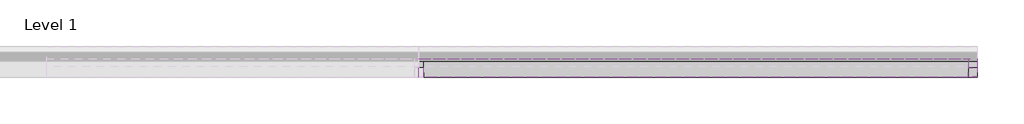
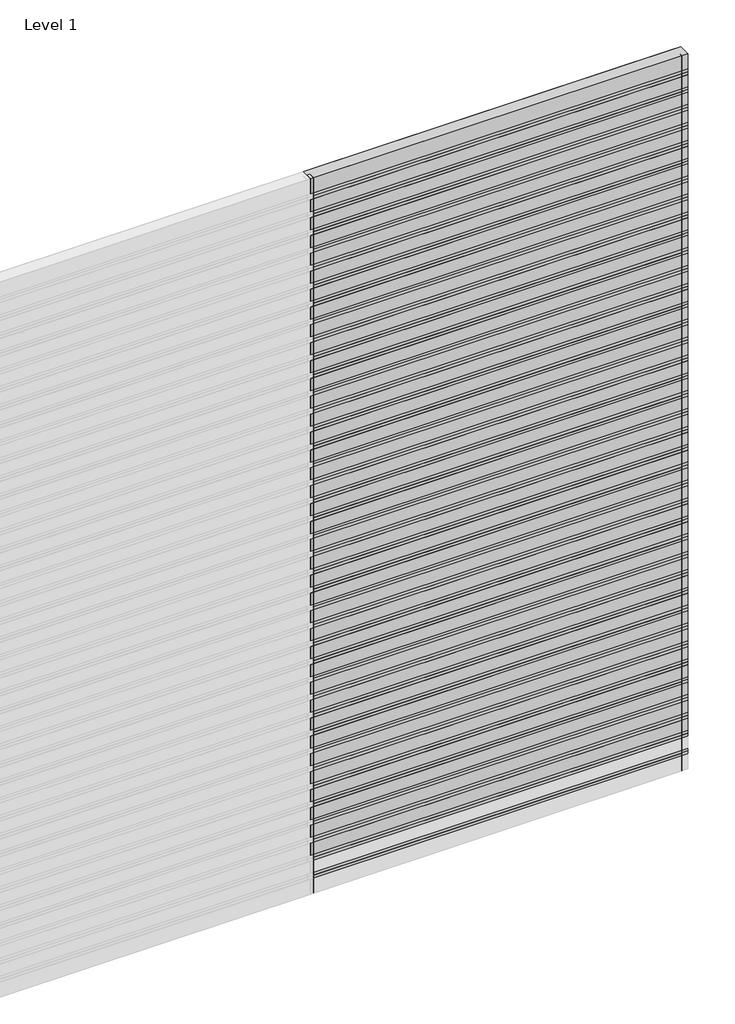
# One storey, part 3 of 3: 78 plates, 40 members.
"""IFC4 building model written with IfcOpenShell, lengths in millimetres."""

from ifc_helpers import new_model, si_unit, origin, place, context, project, spatial, transform, mapped, element, save
from components import rectangular_mullion_64cc6fdd, empty_system_panel_empty_4bef3949, empty_system_panel_empty_2cee0f2e, empty_system_panel_empty_149e9d60

model = new_model("IFC4")

# Units and contexts
model_context = context("Model", 3, world=origin())
ifc_project = project(units=[si_unit("LENGTHUNIT", "METRE", prefix="MILLI")], contexts=[model_context])

# Site, building, storey
site = spatial("IfcSite", under=ifc_project)
building = spatial("IfcBuilding", under=site)
storey = spatial("IfcBuildingStorey", under=building, Name="Level 1", Elevation=0.0)

# Members
placement = place(None, origin())
rectangular_mullion_shape = rectangular_mullion_64cc6fdd(model_context)
element("IfcMember", 1, ObjectType="Rectangular Mullion : RSen_21_CWM_support profile 50x50 - right_gen_duco projects", at=placement, inside=storey, context=model_context, shape_type="MappedRepresentation", body=[
    mapped(rectangular_mullion_shape, transform((6000.0, 3000.0, 6000.0), x_axis=(1.0, 0.0, 0.0), y_axis=(0.0, 1.0, 0.0), z_axis=(0.0, 0.0, 1.0))),
])
element("IfcMember", 2, ObjectType="Rectangular Mullion : RSen_21_CWM_support profile 50x50 - right_gen_duco projects", at=placement, inside=storey, context=model_context, shape_type="MappedRepresentation", body=[
    mapped(rectangular_mullion_shape, transform((6000.0, 3000.0, 150.0), x_axis=(1.0, 0.0, 0.0), y_axis=(0.0, 1.0, 0.0), z_axis=(0.0, 0.0, 1.0))),
])
element("IfcMember", 3, ObjectType="Rectangular Mullion : RSen_21_CWM_support profile 50x50 - right_gen_duco projects", at=placement, inside=storey, context=model_context, shape_type="MappedRepresentation", body=[
    mapped(rectangular_mullion_shape, transform((6000.0, 3000.0, 300.0), x_axis=(1.0, 0.0, 0.0), y_axis=(0.0, 1.0, 0.0), z_axis=(0.0, 0.0, 1.0))),
])
element("IfcMember", 4, ObjectType="Rectangular Mullion : RSen_21_CWM_support profile 50x50 - right_gen_duco projects", at=placement, inside=storey, context=model_context, shape_type="MappedRepresentation", body=[
    mapped(rectangular_mullion_shape, transform((6000.0, 3000.0, 450.0), x_axis=(1.0, 0.0, 0.0), y_axis=(0.0, 1.0, 0.0), z_axis=(0.0, 0.0, 1.0))),
])
element("IfcMember", 5, ObjectType="Rectangular Mullion : RSen_21_CWM_support profile 50x50 - right_gen_duco projects", at=placement, inside=storey, context=model_context, shape_type="MappedRepresentation", body=[
    mapped(rectangular_mullion_shape, transform((6000.0, 3000.0, 600.0), x_axis=(1.0, 0.0, 0.0), y_axis=(0.0, 1.0, 0.0), z_axis=(0.0, 0.0, 1.0))),
])
element("IfcMember", 6, ObjectType="Rectangular Mullion : RSen_21_CWM_support profile 50x50 - right_gen_duco projects", at=placement, inside=storey, context=model_context, shape_type="MappedRepresentation", body=[
    mapped(rectangular_mullion_shape, transform((6000.0, 3000.0, 750.0), x_axis=(1.0, 0.0, 0.0), y_axis=(0.0, 1.0, 0.0), z_axis=(0.0, 0.0, 1.0))),
])
element("IfcMember", 7, ObjectType="Rectangular Mullion : RSen_21_CWM_support profile 50x50 - right_gen_duco projects", at=placement, inside=storey, context=model_context, shape_type="MappedRepresentation", body=[
    mapped(rectangular_mullion_shape, transform((6000.0, 3000.0, 900.0), x_axis=(1.0, 0.0, 0.0), y_axis=(0.0, 1.0, 0.0), z_axis=(0.0, 0.0, 1.0))),
])
element("IfcMember", 8, ObjectType="Rectangular Mullion : RSen_21_CWM_support profile 50x50 - right_gen_duco projects", at=placement, inside=storey, context=model_context, shape_type="MappedRepresentation", body=[
    mapped(rectangular_mullion_shape, transform((6000.0, 3000.0, 1050.0), x_axis=(1.0, 0.0, 0.0), y_axis=(0.0, 1.0, 0.0), z_axis=(0.0, 0.0, 1.0))),
])
element("IfcMember", 9, ObjectType="Rectangular Mullion : RSen_21_CWM_support profile 50x50 - right_gen_duco projects", at=placement, inside=storey, context=model_context, shape_type="MappedRepresentation", body=[
    mapped(rectangular_mullion_shape, transform((6000.0, 3000.0, 1200.0), x_axis=(1.0, 0.0, 0.0), y_axis=(0.0, 1.0, 0.0), z_axis=(0.0, 0.0, 1.0))),
])
element("IfcMember", 10, ObjectType="Rectangular Mullion : RSen_21_CWM_support profile 50x50 - right_gen_duco projects", at=placement, inside=storey, context=model_context, shape_type="MappedRepresentation", body=[
    mapped(rectangular_mullion_shape, transform((6000.0, 3000.0, 1350.0), x_axis=(1.0, 0.0, 0.0), y_axis=(0.0, 1.0, 0.0), z_axis=(0.0, 0.0, 1.0))),
])
element("IfcMember", 11, ObjectType="Rectangular Mullion : RSen_21_CWM_support profile 50x50 - right_gen_duco projects", at=placement, inside=storey, context=model_context, shape_type="MappedRepresentation", body=[
    mapped(rectangular_mullion_shape, transform((6000.0, 3000.0, 1500.0), x_axis=(1.0, 0.0, 0.0), y_axis=(0.0, 1.0, 0.0), z_axis=(0.0, 0.0, 1.0))),
])
element("IfcMember", 12, ObjectType="Rectangular Mullion : RSen_21_CWM_support profile 50x50 - right_gen_duco projects", at=placement, inside=storey, context=model_context, shape_type="MappedRepresentation", body=[
    mapped(rectangular_mullion_shape, transform((6000.0, 3000.0, 1650.0), x_axis=(1.0, 0.0, 0.0), y_axis=(0.0, 1.0, 0.0), z_axis=(0.0, 0.0, 1.0))),
])
element("IfcMember", 13, ObjectType="Rectangular Mullion : RSen_21_CWM_support profile 50x50 - right_gen_duco projects", at=placement, inside=storey, context=model_context, shape_type="MappedRepresentation", body=[
    mapped(rectangular_mullion_shape, transform((6000.0, 3000.0, 1800.0), x_axis=(1.0, 0.0, 0.0), y_axis=(0.0, 1.0, 0.0), z_axis=(0.0, 0.0, 1.0))),
])
element("IfcMember", 14, ObjectType="Rectangular Mullion : RSen_21_CWM_support profile 50x50 - right_gen_duco projects", at=placement, inside=storey, context=model_context, shape_type="MappedRepresentation", body=[
    mapped(rectangular_mullion_shape, transform((6000.0, 3000.0, 1950.0), x_axis=(1.0, 0.0, 0.0), y_axis=(0.0, 1.0, 0.0), z_axis=(0.0, 0.0, 1.0))),
])
element("IfcMember", 15, ObjectType="Rectangular Mullion : RSen_21_CWM_support profile 50x50 - right_gen_duco projects", at=placement, inside=storey, context=model_context, shape_type="MappedRepresentation", body=[
    mapped(rectangular_mullion_shape, transform((6000.0, 3000.0, 2100.0), x_axis=(1.0, 0.0, 0.0), y_axis=(0.0, 1.0, 0.0), z_axis=(0.0, 0.0, 1.0))),
])
element("IfcMember", 16, ObjectType="Rectangular Mullion : RSen_21_CWM_support profile 50x50 - right_gen_duco projects", at=placement, inside=storey, context=model_context, shape_type="MappedRepresentation", body=[
    mapped(rectangular_mullion_shape, transform((6000.0, 3000.0, 2250.0), x_axis=(1.0, 0.0, 0.0), y_axis=(0.0, 1.0, 0.0), z_axis=(0.0, 0.0, 1.0))),
])
element("IfcMember", 17, ObjectType="Rectangular Mullion : RSen_21_CWM_support profile 50x50 - right_gen_duco projects", at=placement, inside=storey, context=model_context, shape_type="MappedRepresentation", body=[
    mapped(rectangular_mullion_shape, transform((6000.0, 3000.0, 2400.0), x_axis=(1.0, 0.0, 0.0), y_axis=(0.0, 1.0, 0.0), z_axis=(0.0, 0.0, 1.0))),
])
element("IfcMember", 18, ObjectType="Rectangular Mullion : RSen_21_CWM_support profile 50x50 - right_gen_duco projects", at=placement, inside=storey, context=model_context, shape_type="MappedRepresentation", body=[
    mapped(rectangular_mullion_shape, transform((6000.0, 3000.0, 2550.0), x_axis=(1.0, 0.0, 0.0), y_axis=(0.0, 1.0, 0.0), z_axis=(0.0, 0.0, 1.0))),
])
element("IfcMember", 19, ObjectType="Rectangular Mullion : RSen_21_CWM_support profile 50x50 - right_gen_duco projects", at=placement, inside=storey, context=model_context, shape_type="MappedRepresentation", body=[
    mapped(rectangular_mullion_shape, transform((6000.0, 3000.0, 2700.0), x_axis=(1.0, 0.0, 0.0), y_axis=(0.0, 1.0, 0.0), z_axis=(0.0, 0.0, 1.0))),
])
element("IfcMember", 20, ObjectType="Rectangular Mullion : RSen_21_CWM_support profile 50x50 - right_gen_duco projects", at=placement, inside=storey, context=model_context, shape_type="MappedRepresentation", body=[
    mapped(rectangular_mullion_shape, transform((6000.0, 3000.0, 2850.0), x_axis=(1.0, 0.0, 0.0), y_axis=(0.0, 1.0, 0.0), z_axis=(0.0, 0.0, 1.0))),
])
element("IfcMember", 21, ObjectType="Rectangular Mullion : RSen_21_CWM_support profile 50x50 - right_gen_duco projects", at=placement, inside=storey, context=model_context, shape_type="MappedRepresentation", body=[
    mapped(rectangular_mullion_shape, transform((6000.0, 3000.0, 3000.0), x_axis=(1.0, 0.0, 0.0), y_axis=(0.0, 1.0, 0.0), z_axis=(0.0, 0.0, 1.0))),
])
element("IfcMember", 22, ObjectType="Rectangular Mullion : RSen_21_CWM_support profile 50x50 - right_gen_duco projects", at=placement, inside=storey, context=model_context, shape_type="MappedRepresentation", body=[
    mapped(rectangular_mullion_shape, transform((6000.0, 3000.0, 3150.0), x_axis=(1.0, 0.0, 0.0), y_axis=(0.0, 1.0, 0.0), z_axis=(0.0, 0.0, 1.0))),
])
element("IfcMember", 23, ObjectType="Rectangular Mullion : RSen_21_CWM_support profile 50x50 - right_gen_duco projects", at=placement, inside=storey, context=model_context, shape_type="MappedRepresentation", body=[
    mapped(rectangular_mullion_shape, transform((6000.0, 3000.0, 3300.0), x_axis=(1.0, 0.0, 0.0), y_axis=(0.0, 1.0, 0.0), z_axis=(0.0, 0.0, 1.0))),
])
element("IfcMember", 24, ObjectType="Rectangular Mullion : RSen_21_CWM_support profile 50x50 - right_gen_duco projects", at=placement, inside=storey, context=model_context, shape_type="MappedRepresentation", body=[
    mapped(rectangular_mullion_shape, transform((6000.0, 3000.0, 3450.0), x_axis=(1.0, 0.0, 0.0), y_axis=(0.0, 1.0, 0.0), z_axis=(0.0, 0.0, 1.0))),
])
element("IfcMember", 25, ObjectType="Rectangular Mullion : RSen_21_CWM_support profile 50x50 - right_gen_duco projects", at=placement, inside=storey, context=model_context, shape_type="MappedRepresentation", body=[
    mapped(rectangular_mullion_shape, transform((6000.0, 3000.0, 3600.0), x_axis=(1.0, 0.0, 0.0), y_axis=(0.0, 1.0, 0.0), z_axis=(0.0, 0.0, 1.0))),
])
element("IfcMember", 26, ObjectType="Rectangular Mullion : RSen_21_CWM_support profile 50x50 - right_gen_duco projects", at=placement, inside=storey, context=model_context, shape_type="MappedRepresentation", body=[
    mapped(rectangular_mullion_shape, transform((6000.0, 3000.0, 3750.0), x_axis=(1.0, 0.0, 0.0), y_axis=(0.0, 1.0, 0.0), z_axis=(0.0, 0.0, 1.0))),
])
element("IfcMember", 27, ObjectType="Rectangular Mullion : RSen_21_CWM_support profile 50x50 - right_gen_duco projects", at=placement, inside=storey, context=model_context, shape_type="MappedRepresentation", body=[
    mapped(rectangular_mullion_shape, transform((6000.0, 3000.0, 3900.0), x_axis=(1.0, 0.0, 0.0), y_axis=(0.0, 1.0, 0.0), z_axis=(0.0, 0.0, 1.0))),
])
element("IfcMember", 28, ObjectType="Rectangular Mullion : RSen_21_CWM_support profile 50x50 - right_gen_duco projects", at=placement, inside=storey, context=model_context, shape_type="MappedRepresentation", body=[
    mapped(rectangular_mullion_shape, transform((6000.0, 3000.0, 4050.0), x_axis=(1.0, 0.0, 0.0), y_axis=(0.0, 1.0, 0.0), z_axis=(0.0, 0.0, 1.0))),
])
element("IfcMember", 29, ObjectType="Rectangular Mullion : RSen_21_CWM_support profile 50x50 - right_gen_duco projects", at=placement, inside=storey, context=model_context, shape_type="MappedRepresentation", body=[
    mapped(rectangular_mullion_shape, transform((6000.0, 3000.0, 4200.0), x_axis=(1.0, 0.0, 0.0), y_axis=(0.0, 1.0, 0.0), z_axis=(0.0, 0.0, 1.0))),
])
element("IfcMember", 30, ObjectType="Rectangular Mullion : RSen_21_CWM_support profile 50x50 - right_gen_duco projects", at=placement, inside=storey, context=model_context, shape_type="MappedRepresentation", body=[
    mapped(rectangular_mullion_shape, transform((6000.0, 3000.0, 4350.0), x_axis=(1.0, 0.0, 0.0), y_axis=(0.0, 1.0, 0.0), z_axis=(0.0, 0.0, 1.0))),
])
element("IfcMember", 31, ObjectType="Rectangular Mullion : RSen_21_CWM_support profile 50x50 - right_gen_duco projects", at=placement, inside=storey, context=model_context, shape_type="MappedRepresentation", body=[
    mapped(rectangular_mullion_shape, transform((6000.0, 3000.0, 4500.0), x_axis=(1.0, 0.0, 0.0), y_axis=(0.0, 1.0, 0.0), z_axis=(0.0, 0.0, 1.0))),
])
element("IfcMember", 32, ObjectType="Rectangular Mullion : RSen_21_CWM_support profile 50x50 - right_gen_duco projects", at=placement, inside=storey, context=model_context, shape_type="MappedRepresentation", body=[
    mapped(rectangular_mullion_shape, transform((6000.0, 3000.0, 4650.0), x_axis=(1.0, 0.0, 0.0), y_axis=(0.0, 1.0, 0.0), z_axis=(0.0, 0.0, 1.0))),
])
element("IfcMember", 33, ObjectType="Rectangular Mullion : RSen_21_CWM_support profile 50x50 - right_gen_duco projects", at=placement, inside=storey, context=model_context, shape_type="MappedRepresentation", body=[
    mapped(rectangular_mullion_shape, transform((6000.0, 3000.0, 4800.0), x_axis=(1.0, 0.0, 0.0), y_axis=(0.0, 1.0, 0.0), z_axis=(0.0, 0.0, 1.0))),
])
element("IfcMember", 34, ObjectType="Rectangular Mullion : RSen_21_CWM_support profile 50x50 - right_gen_duco projects", at=placement, inside=storey, context=model_context, shape_type="MappedRepresentation", body=[
    mapped(rectangular_mullion_shape, transform((6000.0, 3000.0, 4950.0), x_axis=(1.0, 0.0, 0.0), y_axis=(0.0, 1.0, 0.0), z_axis=(0.0, 0.0, 1.0))),
])
element("IfcMember", 35, ObjectType="Rectangular Mullion : RSen_21_CWM_support profile 50x50 - right_gen_duco projects", at=placement, inside=storey, context=model_context, shape_type="MappedRepresentation", body=[
    mapped(rectangular_mullion_shape, transform((6000.0, 3000.0, 5100.0), x_axis=(1.0, 0.0, 0.0), y_axis=(0.0, 1.0, 0.0), z_axis=(0.0, 0.0, 1.0))),
])
element("IfcMember", 36, ObjectType="Rectangular Mullion : RSen_21_CWM_support profile 50x50 - right_gen_duco projects", at=placement, inside=storey, context=model_context, shape_type="MappedRepresentation", body=[
    mapped(rectangular_mullion_shape, transform((6000.0, 3000.0, 5250.0), x_axis=(1.0, 0.0, 0.0), y_axis=(0.0, 1.0, 0.0), z_axis=(0.0, 0.0, 1.0))),
])
element("IfcMember", 37, ObjectType="Rectangular Mullion : RSen_21_CWM_support profile 50x50 - right_gen_duco projects", at=placement, inside=storey, context=model_context, shape_type="MappedRepresentation", body=[
    mapped(rectangular_mullion_shape, transform((6000.0, 3000.0, 5400.0), x_axis=(1.0, 0.0, 0.0), y_axis=(0.0, 1.0, 0.0), z_axis=(0.0, 0.0, 1.0))),
])
element("IfcMember", 38, ObjectType="Rectangular Mullion : RSen_21_CWM_support profile 50x50 - right_gen_duco projects", at=placement, inside=storey, context=model_context, shape_type="MappedRepresentation", body=[
    mapped(rectangular_mullion_shape, transform((6000.0, 3000.0, 5550.0), x_axis=(1.0, 0.0, 0.0), y_axis=(0.0, 1.0, 0.0), z_axis=(0.0, 0.0, 1.0))),
])
element("IfcMember", 39, ObjectType="Rectangular Mullion : RSen_21_CWM_support profile 50x50 - right_gen_duco projects", at=placement, inside=storey, context=model_context, shape_type="MappedRepresentation", body=[
    mapped(rectangular_mullion_shape, transform((6000.0, 3000.0, 5700.0), x_axis=(1.0, 0.0, 0.0), y_axis=(0.0, 1.0, 0.0), z_axis=(0.0, 0.0, 1.0))),
])
element("IfcMember", 40, ObjectType="Rectangular Mullion : RSen_21_CWM_support profile 50x50 - right_gen_duco projects", at=placement, inside=storey, context=model_context, shape_type="MappedRepresentation", body=[
    mapped(rectangular_mullion_shape, transform((6000.0, 3000.0, 5850.0), x_axis=(1.0, 0.0, 0.0), y_axis=(0.0, 1.0, 0.0), z_axis=(0.0, 0.0, 1.0))),
])

# Plates
empty_system_panel_empty_shape = empty_system_panel_empty_4bef3949(model_context)
element("IfcPlate", 41, ObjectType="Empty System Panel : Empty", at=placement, inside=storey, context=model_context, shape_type="MappedRepresentation", body=[
    mapped(empty_system_panel_empty_shape, transform((4500.0, 3000.0, 5874.7487373), x_axis=(-1.0, 0.0, 0.0), y_axis=(0.0, -1.0, 0.0), z_axis=(0.0, 0.0, 1.0))),
])
empty_system_panel_empty_2_shape = empty_system_panel_empty_2cee0f2e(model_context)
element("IfcPlate", 42, ObjectType="Empty System Panel : Empty", at=placement, inside=storey, context=model_context, shape_type="MappedRepresentation", body=[
    mapped(empty_system_panel_empty_2_shape, transform((4500.0, 3000.0, 324.7487373), x_axis=(-1.0, 0.0, 0.0), y_axis=(0.0, -1.0, 0.0), z_axis=(0.0, 0.0, 1.0))),
])
element("IfcPlate", 43, ObjectType="Empty System Panel : Empty", at=placement, inside=storey, context=model_context, shape_type="MappedRepresentation", body=[
    mapped(empty_system_panel_empty_2_shape, transform((4500.0, 3000.0, 474.7487373), x_axis=(-1.0, 0.0, 0.0), y_axis=(0.0, -1.0, 0.0), z_axis=(0.0, 0.0, 1.0))),
])
element("IfcPlate", 44, ObjectType="Empty System Panel : Empty", at=placement, inside=storey, context=model_context, shape_type="MappedRepresentation", body=[
    mapped(empty_system_panel_empty_2_shape, transform((4500.0, 3000.0, 624.7487373), x_axis=(-1.0, 0.0, 0.0), y_axis=(0.0, -1.0, 0.0), z_axis=(0.0, 0.0, 1.0))),
])
element("IfcPlate", 45, ObjectType="Empty System Panel : Empty", at=placement, inside=storey, context=model_context, shape_type="MappedRepresentation", body=[
    mapped(empty_system_panel_empty_2_shape, transform((4500.0, 3000.0, 774.7487373), x_axis=(-1.0, 0.0, 0.0), y_axis=(0.0, -1.0, 0.0), z_axis=(0.0, 0.0, 1.0))),
])
element("IfcPlate", 46, ObjectType="Empty System Panel : Empty", at=placement, inside=storey, context=model_context, shape_type="MappedRepresentation", body=[
    mapped(empty_system_panel_empty_2_shape, transform((4500.0, 3000.0, 924.7487373), x_axis=(-1.0, 0.0, 0.0), y_axis=(0.0, -1.0, 0.0), z_axis=(0.0, 0.0, 1.0))),
])
element("IfcPlate", 47, ObjectType="Empty System Panel : Empty", at=placement, inside=storey, context=model_context, shape_type="MappedRepresentation", body=[
    mapped(empty_system_panel_empty_2_shape, transform((4500.0, 3000.0, 1074.7487373), x_axis=(-1.0, 0.0, 0.0), y_axis=(0.0, -1.0, 0.0), z_axis=(0.0, 0.0, 1.0))),
])
element("IfcPlate", 48, ObjectType="Empty System Panel : Empty", at=placement, inside=storey, context=model_context, shape_type="MappedRepresentation", body=[
    mapped(empty_system_panel_empty_2_shape, transform((4500.0, 3000.0, 1224.7487373), x_axis=(-1.0, 0.0, 0.0), y_axis=(0.0, -1.0, 0.0), z_axis=(0.0, 0.0, 1.0))),
])
element("IfcPlate", 49, ObjectType="Empty System Panel : Empty", at=placement, inside=storey, context=model_context, shape_type="MappedRepresentation", body=[
    mapped(empty_system_panel_empty_2_shape, transform((4500.0, 3000.0, 1374.7487373), x_axis=(-1.0, 0.0, 0.0), y_axis=(0.0, -1.0, 0.0), z_axis=(0.0, 0.0, 1.0))),
])
element("IfcPlate", 50, ObjectType="Empty System Panel : Empty", at=placement, inside=storey, context=model_context, shape_type="MappedRepresentation", body=[
    mapped(empty_system_panel_empty_2_shape, transform((4500.0, 3000.0, 1524.7487373), x_axis=(-1.0, 0.0, 0.0), y_axis=(0.0, -1.0, 0.0), z_axis=(0.0, 0.0, 1.0))),
])
element("IfcPlate", 51, ObjectType="Empty System Panel : Empty", at=placement, inside=storey, context=model_context, shape_type="MappedRepresentation", body=[
    mapped(empty_system_panel_empty_2_shape, transform((4500.0, 3000.0, 1674.7487373), x_axis=(-1.0, 0.0, 0.0), y_axis=(0.0, -1.0, 0.0), z_axis=(0.0, 0.0, 1.0))),
])
element("IfcPlate", 52, ObjectType="Empty System Panel : Empty", at=placement, inside=storey, context=model_context, shape_type="MappedRepresentation", body=[
    mapped(empty_system_panel_empty_2_shape, transform((4500.0, 3000.0, 1824.7487373), x_axis=(-1.0, 0.0, 0.0), y_axis=(0.0, -1.0, 0.0), z_axis=(0.0, 0.0, 1.0))),
])
element("IfcPlate", 53, ObjectType="Empty System Panel : Empty", at=placement, inside=storey, context=model_context, shape_type="MappedRepresentation", body=[
    mapped(empty_system_panel_empty_2_shape, transform((4500.0, 3000.0, 1974.7487373), x_axis=(-1.0, 0.0, 0.0), y_axis=(0.0, -1.0, 0.0), z_axis=(0.0, 0.0, 1.0))),
])
element("IfcPlate", 54, ObjectType="Empty System Panel : Empty", at=placement, inside=storey, context=model_context, shape_type="MappedRepresentation", body=[
    mapped(empty_system_panel_empty_2_shape, transform((4500.0, 3000.0, 2124.7487373), x_axis=(-1.0, 0.0, 0.0), y_axis=(0.0, -1.0, 0.0), z_axis=(0.0, 0.0, 1.0))),
])
element("IfcPlate", 55, ObjectType="Empty System Panel : Empty", at=placement, inside=storey, context=model_context, shape_type="MappedRepresentation", body=[
    mapped(empty_system_panel_empty_2_shape, transform((4500.0, 3000.0, 2274.7487373), x_axis=(-1.0, 0.0, 0.0), y_axis=(0.0, -1.0, 0.0), z_axis=(0.0, 0.0, 1.0))),
])
element("IfcPlate", 56, ObjectType="Empty System Panel : Empty", at=placement, inside=storey, context=model_context, shape_type="MappedRepresentation", body=[
    mapped(empty_system_panel_empty_2_shape, transform((4500.0, 3000.0, 2424.7487373), x_axis=(-1.0, 0.0, 0.0), y_axis=(0.0, -1.0, 0.0), z_axis=(0.0, 0.0, 1.0))),
])
element("IfcPlate", 57, ObjectType="Empty System Panel : Empty", at=placement, inside=storey, context=model_context, shape_type="MappedRepresentation", body=[
    mapped(empty_system_panel_empty_2_shape, transform((4500.0, 3000.0, 2574.7487373), x_axis=(-1.0, 0.0, 0.0), y_axis=(0.0, -1.0, 0.0), z_axis=(0.0, 0.0, 1.0))),
])
element("IfcPlate", 58, ObjectType="Empty System Panel : Empty", at=placement, inside=storey, context=model_context, shape_type="MappedRepresentation", body=[
    mapped(empty_system_panel_empty_2_shape, transform((4500.0, 3000.0, 2724.7487373), x_axis=(-1.0, 0.0, 0.0), y_axis=(0.0, -1.0, 0.0), z_axis=(0.0, 0.0, 1.0))),
])
element("IfcPlate", 59, ObjectType="Empty System Panel : Empty", at=placement, inside=storey, context=model_context, shape_type="MappedRepresentation", body=[
    mapped(empty_system_panel_empty_2_shape, transform((4500.0, 3000.0, 2874.7487373), x_axis=(-1.0, 0.0, 0.0), y_axis=(0.0, -1.0, 0.0), z_axis=(0.0, 0.0, 1.0))),
])
element("IfcPlate", 60, ObjectType="Empty System Panel : Empty", at=placement, inside=storey, context=model_context, shape_type="MappedRepresentation", body=[
    mapped(empty_system_panel_empty_2_shape, transform((4500.0, 3000.0, 3024.7487373), x_axis=(-1.0, 0.0, 0.0), y_axis=(0.0, -1.0, 0.0), z_axis=(0.0, 0.0, 1.0))),
])
element("IfcPlate", 61, ObjectType="Empty System Panel : Empty", at=placement, inside=storey, context=model_context, shape_type="MappedRepresentation", body=[
    mapped(empty_system_panel_empty_2_shape, transform((4500.0, 3000.0, 3174.7487373), x_axis=(-1.0, 0.0, 0.0), y_axis=(0.0, -1.0, 0.0), z_axis=(0.0, 0.0, 1.0))),
])
element("IfcPlate", 62, ObjectType="Empty System Panel : Empty", at=placement, inside=storey, context=model_context, shape_type="MappedRepresentation", body=[
    mapped(empty_system_panel_empty_2_shape, transform((4500.0, 3000.0, 3324.7487373), x_axis=(-1.0, 0.0, 0.0), y_axis=(0.0, -1.0, 0.0), z_axis=(0.0, 0.0, 1.0))),
])
element("IfcPlate", 63, ObjectType="Empty System Panel : Empty", at=placement, inside=storey, context=model_context, shape_type="MappedRepresentation", body=[
    mapped(empty_system_panel_empty_2_shape, transform((4500.0, 3000.0, 3474.7487373), x_axis=(-1.0, 0.0, 0.0), y_axis=(0.0, -1.0, 0.0), z_axis=(0.0, 0.0, 1.0))),
])
element("IfcPlate", 64, ObjectType="Empty System Panel : Empty", at=placement, inside=storey, context=model_context, shape_type="MappedRepresentation", body=[
    mapped(empty_system_panel_empty_2_shape, transform((4500.0, 3000.0, 3624.7487373), x_axis=(-1.0, 0.0, 0.0), y_axis=(0.0, -1.0, 0.0), z_axis=(0.0, 0.0, 1.0))),
])
element("IfcPlate", 65, ObjectType="Empty System Panel : Empty", at=placement, inside=storey, context=model_context, shape_type="MappedRepresentation", body=[
    mapped(empty_system_panel_empty_2_shape, transform((4500.0, 3000.0, 3774.7487373), x_axis=(-1.0, 0.0, 0.0), y_axis=(0.0, -1.0, 0.0), z_axis=(0.0, 0.0, 1.0))),
])
element("IfcPlate", 66, ObjectType="Empty System Panel : Empty", at=placement, inside=storey, context=model_context, shape_type="MappedRepresentation", body=[
    mapped(empty_system_panel_empty_2_shape, transform((4500.0, 3000.0, 3924.7487373), x_axis=(-1.0, 0.0, 0.0), y_axis=(0.0, -1.0, 0.0), z_axis=(0.0, 0.0, 1.0))),
])
element("IfcPlate", 67, ObjectType="Empty System Panel : Empty", at=placement, inside=storey, context=model_context, shape_type="MappedRepresentation", body=[
    mapped(empty_system_panel_empty_2_shape, transform((4500.0, 3000.0, 4074.7487373), x_axis=(-1.0, 0.0, 0.0), y_axis=(0.0, -1.0, 0.0), z_axis=(0.0, 0.0, 1.0))),
])
element("IfcPlate", 68, ObjectType="Empty System Panel : Empty", at=placement, inside=storey, context=model_context, shape_type="MappedRepresentation", body=[
    mapped(empty_system_panel_empty_2_shape, transform((4500.0, 3000.0, 4224.7487373), x_axis=(-1.0, 0.0, 0.0), y_axis=(0.0, -1.0, 0.0), z_axis=(0.0, 0.0, 1.0))),
])
element("IfcPlate", 69, ObjectType="Empty System Panel : Empty", at=placement, inside=storey, context=model_context, shape_type="MappedRepresentation", body=[
    mapped(empty_system_panel_empty_2_shape, transform((4500.0, 3000.0, 4374.7487373), x_axis=(-1.0, 0.0, 0.0), y_axis=(0.0, -1.0, 0.0), z_axis=(0.0, 0.0, 1.0))),
])
element("IfcPlate", 70, ObjectType="Empty System Panel : Empty", at=placement, inside=storey, context=model_context, shape_type="MappedRepresentation", body=[
    mapped(empty_system_panel_empty_2_shape, transform((4500.0, 3000.0, 4524.7487373), x_axis=(-1.0, 0.0, 0.0), y_axis=(0.0, -1.0, 0.0), z_axis=(0.0, 0.0, 1.0))),
])
element("IfcPlate", 71, ObjectType="Empty System Panel : Empty", at=placement, inside=storey, context=model_context, shape_type="MappedRepresentation", body=[
    mapped(empty_system_panel_empty_2_shape, transform((4500.0, 3000.0, 4674.7487373), x_axis=(-1.0, 0.0, 0.0), y_axis=(0.0, -1.0, 0.0), z_axis=(0.0, 0.0, 1.0))),
])
element("IfcPlate", 72, ObjectType="Empty System Panel : Empty", at=placement, inside=storey, context=model_context, shape_type="MappedRepresentation", body=[
    mapped(empty_system_panel_empty_2_shape, transform((4500.0, 3000.0, 4824.7487373), x_axis=(-1.0, 0.0, 0.0), y_axis=(0.0, -1.0, 0.0), z_axis=(0.0, 0.0, 1.0))),
])
element("IfcPlate", 73, ObjectType="Empty System Panel : Empty", at=placement, inside=storey, context=model_context, shape_type="MappedRepresentation", body=[
    mapped(empty_system_panel_empty_2_shape, transform((4500.0, 3000.0, 4974.7487373), x_axis=(-1.0, 0.0, 0.0), y_axis=(0.0, -1.0, 0.0), z_axis=(0.0, 0.0, 1.0))),
])
element("IfcPlate", 74, ObjectType="Empty System Panel : Empty", at=placement, inside=storey, context=model_context, shape_type="MappedRepresentation", body=[
    mapped(empty_system_panel_empty_2_shape, transform((4500.0, 3000.0, 5124.7487373), x_axis=(-1.0, 0.0, 0.0), y_axis=(0.0, -1.0, 0.0), z_axis=(0.0, 0.0, 1.0))),
])
element("IfcPlate", 75, ObjectType="Empty System Panel : Empty", at=placement, inside=storey, context=model_context, shape_type="MappedRepresentation", body=[
    mapped(empty_system_panel_empty_2_shape, transform((4500.0, 3000.0, 5274.7487373), x_axis=(-1.0, 0.0, 0.0), y_axis=(0.0, -1.0, 0.0), z_axis=(0.0, 0.0, 1.0))),
])
element("IfcPlate", 76, ObjectType="Empty System Panel : Empty", at=placement, inside=storey, context=model_context, shape_type="MappedRepresentation", body=[
    mapped(empty_system_panel_empty_2_shape, transform((4500.0, 3000.0, 5424.7487373), x_axis=(-1.0, 0.0, 0.0), y_axis=(0.0, -1.0, 0.0), z_axis=(0.0, 0.0, 1.0))),
])
element("IfcPlate", 77, ObjectType="Empty System Panel : Empty", at=placement, inside=storey, context=model_context, shape_type="MappedRepresentation", body=[
    mapped(empty_system_panel_empty_2_shape, transform((4500.0, 3000.0, 5574.7487373), x_axis=(-1.0, 0.0, 0.0), y_axis=(0.0, -1.0, 0.0), z_axis=(0.0, 0.0, 1.0))),
])
element("IfcPlate", 78, ObjectType="Empty System Panel : Empty", at=placement, inside=storey, context=model_context, shape_type="MappedRepresentation", body=[
    mapped(empty_system_panel_empty_2_shape, transform((4500.0, 3000.0, 5724.7487373), x_axis=(-1.0, 0.0, 0.0), y_axis=(0.0, -1.0, 0.0), z_axis=(0.0, 0.0, 1.0))),
])
empty_system_panel_empty_3_shape = empty_system_panel_empty_149e9d60(model_context)
element("IfcPlate", 79, ObjectType="Empty System Panel : Empty", at=placement, inside=storey, context=model_context, shape_type="MappedRepresentation", body=[
    mapped(empty_system_panel_empty_3_shape, transform((4487.5, 3000.0, 0.0), x_axis=(-1.0, 0.0, 0.0), y_axis=(0.0, -1.0, 0.0), z_axis=(0.0, 0.0, 1.0))),
])
element("IfcPlate", 80, ObjectType="Empty System Panel : Empty", at=placement, inside=storey, context=model_context, shape_type="MappedRepresentation", body=[
    mapped(empty_system_panel_empty_3_shape, transform((4487.5, 3000.0, 150.0), x_axis=(-1.0, 0.0, 0.0), y_axis=(0.0, -1.0, 0.0), z_axis=(0.0, 0.0, 1.0))),
])
element("IfcPlate", 81, ObjectType="Empty System Panel : Empty", at=placement, inside=storey, context=model_context, shape_type="MappedRepresentation", body=[
    mapped(empty_system_panel_empty_3_shape, transform((4487.5, 3000.0, 300.0), x_axis=(-1.0, 0.0, 0.0), y_axis=(0.0, -1.0, 0.0), z_axis=(0.0, 0.0, 1.0))),
])
element("IfcPlate", 82, ObjectType="Empty System Panel : Empty", at=placement, inside=storey, context=model_context, shape_type="MappedRepresentation", body=[
    mapped(empty_system_panel_empty_3_shape, transform((4487.5, 3000.0, 450.0), x_axis=(-1.0, 0.0, 0.0), y_axis=(0.0, -1.0, 0.0), z_axis=(0.0, 0.0, 1.0))),
])
element("IfcPlate", 83, ObjectType="Empty System Panel : Empty", at=placement, inside=storey, context=model_context, shape_type="MappedRepresentation", body=[
    mapped(empty_system_panel_empty_3_shape, transform((4487.5, 3000.0, 600.0), x_axis=(-1.0, 0.0, 0.0), y_axis=(0.0, -1.0, 0.0), z_axis=(0.0, 0.0, 1.0))),
])
element("IfcPlate", 84, ObjectType="Empty System Panel : Empty", at=placement, inside=storey, context=model_context, shape_type="MappedRepresentation", body=[
    mapped(empty_system_panel_empty_3_shape, transform((4487.5, 3000.0, 750.0), x_axis=(-1.0, 0.0, 0.0), y_axis=(0.0, -1.0, 0.0), z_axis=(0.0, 0.0, 1.0))),
])
element("IfcPlate", 85, ObjectType="Empty System Panel : Empty", at=placement, inside=storey, context=model_context, shape_type="MappedRepresentation", body=[
    mapped(empty_system_panel_empty_3_shape, transform((4487.5, 3000.0, 900.0), x_axis=(-1.0, 0.0, 0.0), y_axis=(0.0, -1.0, 0.0), z_axis=(0.0, 0.0, 1.0))),
])
element("IfcPlate", 86, ObjectType="Empty System Panel : Empty", at=placement, inside=storey, context=model_context, shape_type="MappedRepresentation", body=[
    mapped(empty_system_panel_empty_3_shape, transform((4487.5, 3000.0, 1050.0), x_axis=(-1.0, 0.0, 0.0), y_axis=(0.0, -1.0, 0.0), z_axis=(0.0, 0.0, 1.0))),
])
element("IfcPlate", 87, ObjectType="Empty System Panel : Empty", at=placement, inside=storey, context=model_context, shape_type="MappedRepresentation", body=[
    mapped(empty_system_panel_empty_3_shape, transform((4487.5, 3000.0, 1200.0), x_axis=(-1.0, 0.0, 0.0), y_axis=(0.0, -1.0, 0.0), z_axis=(0.0, 0.0, 1.0))),
])
element("IfcPlate", 88, ObjectType="Empty System Panel : Empty", at=placement, inside=storey, context=model_context, shape_type="MappedRepresentation", body=[
    mapped(empty_system_panel_empty_3_shape, transform((4487.5, 3000.0, 1350.0), x_axis=(-1.0, 0.0, 0.0), y_axis=(0.0, -1.0, 0.0), z_axis=(0.0, 0.0, 1.0))),
])
element("IfcPlate", 89, ObjectType="Empty System Panel : Empty", at=placement, inside=storey, context=model_context, shape_type="MappedRepresentation", body=[
    mapped(empty_system_panel_empty_3_shape, transform((4487.5, 3000.0, 1500.0), x_axis=(-1.0, 0.0, 0.0), y_axis=(0.0, -1.0, 0.0), z_axis=(0.0, 0.0, 1.0))),
])
element("IfcPlate", 90, ObjectType="Empty System Panel : Empty", at=placement, inside=storey, context=model_context, shape_type="MappedRepresentation", body=[
    mapped(empty_system_panel_empty_3_shape, transform((4487.5, 3000.0, 1650.0), x_axis=(-1.0, 0.0, 0.0), y_axis=(0.0, -1.0, 0.0), z_axis=(0.0, 0.0, 1.0))),
])
element("IfcPlate", 91, ObjectType="Empty System Panel : Empty", at=placement, inside=storey, context=model_context, shape_type="MappedRepresentation", body=[
    mapped(empty_system_panel_empty_3_shape, transform((4487.5, 3000.0, 1800.0), x_axis=(-1.0, 0.0, 0.0), y_axis=(0.0, -1.0, 0.0), z_axis=(0.0, 0.0, 1.0))),
])
element("IfcPlate", 92, ObjectType="Empty System Panel : Empty", at=placement, inside=storey, context=model_context, shape_type="MappedRepresentation", body=[
    mapped(empty_system_panel_empty_3_shape, transform((4487.5, 3000.0, 1950.0), x_axis=(-1.0, 0.0, 0.0), y_axis=(0.0, -1.0, 0.0), z_axis=(0.0, 0.0, 1.0))),
])
element("IfcPlate", 93, ObjectType="Empty System Panel : Empty", at=placement, inside=storey, context=model_context, shape_type="MappedRepresentation", body=[
    mapped(empty_system_panel_empty_3_shape, transform((4487.5, 3000.0, 2100.0), x_axis=(-1.0, 0.0, 0.0), y_axis=(0.0, -1.0, 0.0), z_axis=(0.0, 0.0, 1.0))),
])
element("IfcPlate", 94, ObjectType="Empty System Panel : Empty", at=placement, inside=storey, context=model_context, shape_type="MappedRepresentation", body=[
    mapped(empty_system_panel_empty_3_shape, transform((4487.5, 3000.0, 2250.0), x_axis=(-1.0, 0.0, 0.0), y_axis=(0.0, -1.0, 0.0), z_axis=(0.0, 0.0, 1.0))),
])
element("IfcPlate", 95, ObjectType="Empty System Panel : Empty", at=placement, inside=storey, context=model_context, shape_type="MappedRepresentation", body=[
    mapped(empty_system_panel_empty_3_shape, transform((4487.5, 3000.0, 2400.0), x_axis=(-1.0, 0.0, 0.0), y_axis=(0.0, -1.0, 0.0), z_axis=(0.0, 0.0, 1.0))),
])
element("IfcPlate", 96, ObjectType="Empty System Panel : Empty", at=placement, inside=storey, context=model_context, shape_type="MappedRepresentation", body=[
    mapped(empty_system_panel_empty_3_shape, transform((4487.5, 3000.0, 2550.0), x_axis=(-1.0, 0.0, 0.0), y_axis=(0.0, -1.0, 0.0), z_axis=(0.0, 0.0, 1.0))),
])
element("IfcPlate", 97, ObjectType="Empty System Panel : Empty", at=placement, inside=storey, context=model_context, shape_type="MappedRepresentation", body=[
    mapped(empty_system_panel_empty_3_shape, transform((4487.5, 3000.0, 2700.0), x_axis=(-1.0, 0.0, 0.0), y_axis=(0.0, -1.0, 0.0), z_axis=(0.0, 0.0, 1.0))),
])
element("IfcPlate", 98, ObjectType="Empty System Panel : Empty", at=placement, inside=storey, context=model_context, shape_type="MappedRepresentation", body=[
    mapped(empty_system_panel_empty_3_shape, transform((4487.5, 3000.0, 2850.0), x_axis=(-1.0, 0.0, 0.0), y_axis=(0.0, -1.0, 0.0), z_axis=(0.0, 0.0, 1.0))),
])
element("IfcPlate", 99, ObjectType="Empty System Panel : Empty", at=placement, inside=storey, context=model_context, shape_type="MappedRepresentation", body=[
    mapped(empty_system_panel_empty_3_shape, transform((4487.5, 3000.0, 3000.0), x_axis=(-1.0, 0.0, 0.0), y_axis=(0.0, -1.0, 0.0), z_axis=(0.0, 0.0, 1.0))),
])
element("IfcPlate", 100, ObjectType="Empty System Panel : Empty", at=placement, inside=storey, context=model_context, shape_type="MappedRepresentation", body=[
    mapped(empty_system_panel_empty_3_shape, transform((4487.5, 3000.0, 3150.0), x_axis=(-1.0, 0.0, 0.0), y_axis=(0.0, -1.0, 0.0), z_axis=(0.0, 0.0, 1.0))),
])
element("IfcPlate", 101, ObjectType="Empty System Panel : Empty", at=placement, inside=storey, context=model_context, shape_type="MappedRepresentation", body=[
    mapped(empty_system_panel_empty_3_shape, transform((4487.5, 3000.0, 3300.0), x_axis=(-1.0, 0.0, 0.0), y_axis=(0.0, -1.0, 0.0), z_axis=(0.0, 0.0, 1.0))),
])
element("IfcPlate", 102, ObjectType="Empty System Panel : Empty", at=placement, inside=storey, context=model_context, shape_type="MappedRepresentation", body=[
    mapped(empty_system_panel_empty_3_shape, transform((4487.5, 3000.0, 3450.0), x_axis=(-1.0, 0.0, 0.0), y_axis=(0.0, -1.0, 0.0), z_axis=(0.0, 0.0, 1.0))),
])
element("IfcPlate", 103, ObjectType="Empty System Panel : Empty", at=placement, inside=storey, context=model_context, shape_type="MappedRepresentation", body=[
    mapped(empty_system_panel_empty_3_shape, transform((4487.5, 3000.0, 3600.0), x_axis=(-1.0, 0.0, 0.0), y_axis=(0.0, -1.0, 0.0), z_axis=(0.0, 0.0, 1.0))),
])
element("IfcPlate", 104, ObjectType="Empty System Panel : Empty", at=placement, inside=storey, context=model_context, shape_type="MappedRepresentation", body=[
    mapped(empty_system_panel_empty_3_shape, transform((4487.5, 3000.0, 3750.0), x_axis=(-1.0, 0.0, 0.0), y_axis=(0.0, -1.0, 0.0), z_axis=(0.0, 0.0, 1.0))),
])
element("IfcPlate", 105, ObjectType="Empty System Panel : Empty", at=placement, inside=storey, context=model_context, shape_type="MappedRepresentation", body=[
    mapped(empty_system_panel_empty_3_shape, transform((4487.5, 3000.0, 3900.0), x_axis=(-1.0, 0.0, 0.0), y_axis=(0.0, -1.0, 0.0), z_axis=(0.0, 0.0, 1.0))),
])
element("IfcPlate", 106, ObjectType="Empty System Panel : Empty", at=placement, inside=storey, context=model_context, shape_type="MappedRepresentation", body=[
    mapped(empty_system_panel_empty_3_shape, transform((4487.5, 3000.0, 4050.0), x_axis=(-1.0, 0.0, 0.0), y_axis=(0.0, -1.0, 0.0), z_axis=(0.0, 0.0, 1.0))),
])
element("IfcPlate", 107, ObjectType="Empty System Panel : Empty", at=placement, inside=storey, context=model_context, shape_type="MappedRepresentation", body=[
    mapped(empty_system_panel_empty_3_shape, transform((4487.5, 3000.0, 4200.0), x_axis=(-1.0, 0.0, 0.0), y_axis=(0.0, -1.0, 0.0), z_axis=(0.0, 0.0, 1.0))),
])
element("IfcPlate", 108, ObjectType="Empty System Panel : Empty", at=placement, inside=storey, context=model_context, shape_type="MappedRepresentation", body=[
    mapped(empty_system_panel_empty_3_shape, transform((4487.5, 3000.0, 4350.0), x_axis=(-1.0, 0.0, 0.0), y_axis=(0.0, -1.0, 0.0), z_axis=(0.0, 0.0, 1.0))),
])
element("IfcPlate", 109, ObjectType="Empty System Panel : Empty", at=placement, inside=storey, context=model_context, shape_type="MappedRepresentation", body=[
    mapped(empty_system_panel_empty_3_shape, transform((4487.5, 3000.0, 4500.0), x_axis=(-1.0, 0.0, 0.0), y_axis=(0.0, -1.0, 0.0), z_axis=(0.0, 0.0, 1.0))),
])
element("IfcPlate", 110, ObjectType="Empty System Panel : Empty", at=placement, inside=storey, context=model_context, shape_type="MappedRepresentation", body=[
    mapped(empty_system_panel_empty_3_shape, transform((4487.5, 3000.0, 4650.0), x_axis=(-1.0, 0.0, 0.0), y_axis=(0.0, -1.0, 0.0), z_axis=(0.0, 0.0, 1.0))),
])
element("IfcPlate", 111, ObjectType="Empty System Panel : Empty", at=placement, inside=storey, context=model_context, shape_type="MappedRepresentation", body=[
    mapped(empty_system_panel_empty_3_shape, transform((4487.5, 3000.0, 4800.0), x_axis=(-1.0, 0.0, 0.0), y_axis=(0.0, -1.0, 0.0), z_axis=(0.0, 0.0, 1.0))),
])
element("IfcPlate", 112, ObjectType="Empty System Panel : Empty", at=placement, inside=storey, context=model_context, shape_type="MappedRepresentation", body=[
    mapped(empty_system_panel_empty_3_shape, transform((4487.5, 3000.0, 4950.0), x_axis=(-1.0, 0.0, 0.0), y_axis=(0.0, -1.0, 0.0), z_axis=(0.0, 0.0, 1.0))),
])
element("IfcPlate", 113, ObjectType="Empty System Panel : Empty", at=placement, inside=storey, context=model_context, shape_type="MappedRepresentation", body=[
    mapped(empty_system_panel_empty_3_shape, transform((4487.5, 3000.0, 5100.0), x_axis=(-1.0, 0.0, 0.0), y_axis=(0.0, -1.0, 0.0), z_axis=(0.0, 0.0, 1.0))),
])
element("IfcPlate", 114, ObjectType="Empty System Panel : Empty", at=placement, inside=storey, context=model_context, shape_type="MappedRepresentation", body=[
    mapped(empty_system_panel_empty_3_shape, transform((4487.5, 3000.0, 5250.0), x_axis=(-1.0, 0.0, 0.0), y_axis=(0.0, -1.0, 0.0), z_axis=(0.0, 0.0, 1.0))),
])
element("IfcPlate", 115, ObjectType="Empty System Panel : Empty", at=placement, inside=storey, context=model_context, shape_type="MappedRepresentation", body=[
    mapped(empty_system_panel_empty_3_shape, transform((4487.5, 3000.0, 5400.0), x_axis=(-1.0, 0.0, 0.0), y_axis=(0.0, -1.0, 0.0), z_axis=(0.0, 0.0, 1.0))),
])
element("IfcPlate", 116, ObjectType="Empty System Panel : Empty", at=placement, inside=storey, context=model_context, shape_type="MappedRepresentation", body=[
    mapped(empty_system_panel_empty_3_shape, transform((4487.5, 3000.0, 5550.0), x_axis=(-1.0, 0.0, 0.0), y_axis=(0.0, -1.0, 0.0), z_axis=(0.0, 0.0, 1.0))),
])
element("IfcPlate", 117, ObjectType="Empty System Panel : Empty", at=placement, inside=storey, context=model_context, shape_type="MappedRepresentation", body=[
    mapped(empty_system_panel_empty_3_shape, transform((4487.5, 3000.0, 5700.0), x_axis=(-1.0, 0.0, 0.0), y_axis=(0.0, -1.0, 0.0), z_axis=(0.0, 0.0, 1.0))),
])
element("IfcPlate", 118, ObjectType="Empty System Panel : Empty", at=placement, inside=storey, context=model_context, shape_type="MappedRepresentation", body=[
    mapped(empty_system_panel_empty_3_shape, transform((4487.5, 3000.0, 5850.0), x_axis=(-1.0, 0.0, 0.0), y_axis=(0.0, -1.0, 0.0), z_axis=(0.0, 0.0, 1.0))),
])

save(model, "model.ifc")
